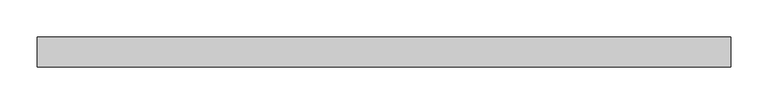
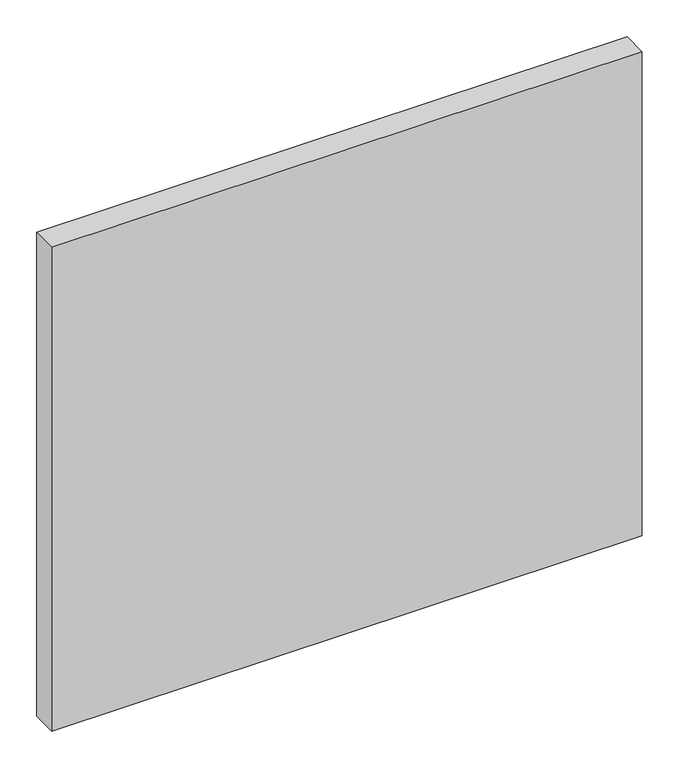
"""IFC4 building model written with IfcOpenShell, lengths in millimetres: plate geometry, Vitré."""

from ifc_helpers import new_model, si_unit, origin, origin_with_axes, place, context, project, spatial, polyline, outline, extrude, source, transform, mapped, element, save


def plate_030ebd5c(model_context):
    return source(origin(), model_context, "Body", "SweptSolid", [
        extrude(outline(polyline([(-462.5000002, -20.0), (-462.5000002, 20.0), (462.5000002, 20.0), (462.5000002, -20.0), (-462.5000002, -20.0)])), origin_with_axes(), (0.0, 0.0, 1.0), 801.2351114),
    ])


if __name__ == "__main__":
    model = new_model("IFC4")
    model_context = context("Model", 3, world=origin())
    ifc_project = project(units=[si_unit("LENGTHUNIT", "METRE", prefix="MILLI")], contexts=[model_context])
    site = spatial("IfcSite", under=ifc_project)
    building = spatial("IfcBuilding", under=site)
    placement = place(None, origin())
    plate_shape = plate_030ebd5c(model_context)
    element("IfcPlate", 1, ObjectType="Vitré", at=placement, inside=building, context=model_context, shape_type="MappedRepresentation", body=[
        mapped(plate_shape, transform((0.0, 0.0, 0.0), x_axis=(1.0, 0.0, 0.0), y_axis=(0.0, 1.0, 0.0), z_axis=(0.0, 0.0, 1.0))),
    ])
    save(model, "model.ifc")
